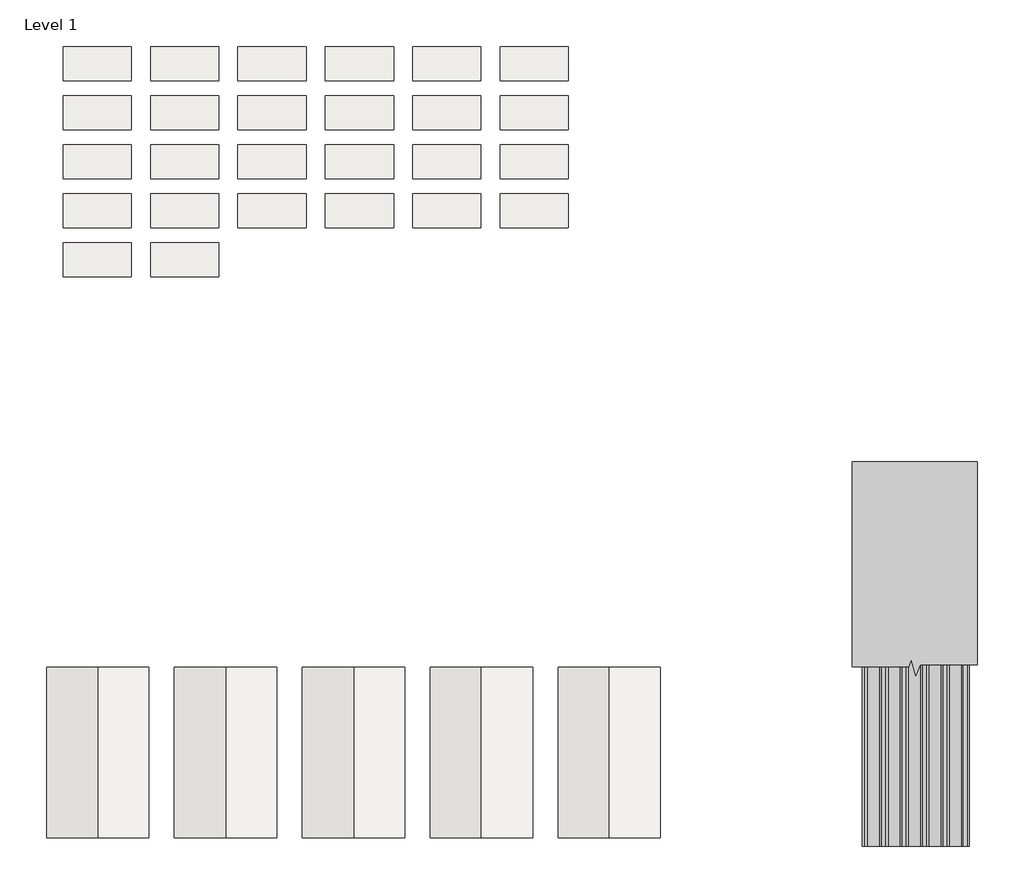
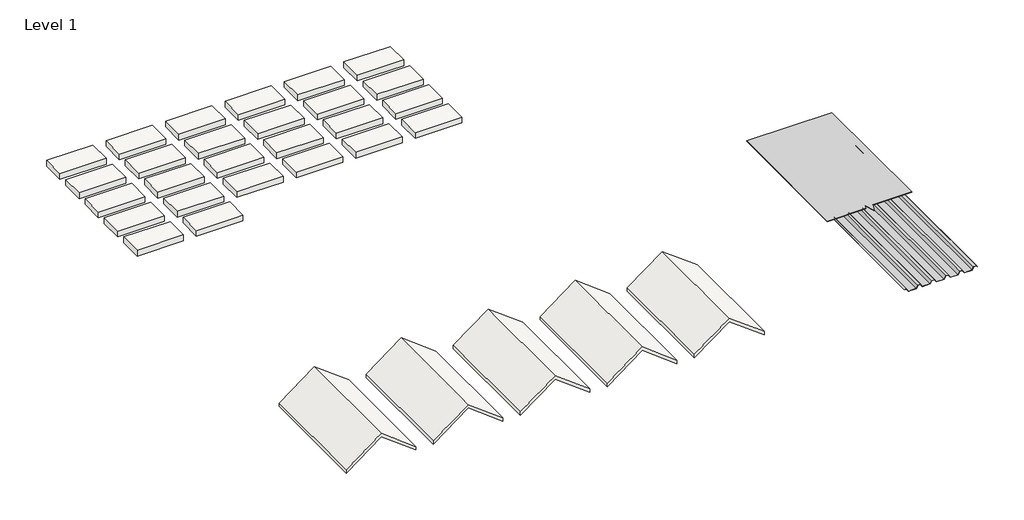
# One storey: 26 slabs, 5 roofs, 2 proxies.
"""IFC4 building model written with IfcOpenShell, lengths in millimetres."""

from ifc_helpers import new_model, si_unit, frame, origin, place, context, project, spatial, polyline, outline, extrude, transform, mapped, element, save
from components import proxy_1db7d4b0, section_mask3_section_mask_4427abd5

model = new_model("IFC4")

# Units and contexts
model_context = context("Model", 3, world=origin())
ifc_project = project(units=[si_unit("LENGTHUNIT", "METRE", prefix="MILLI")], contexts=[model_context])

# Site, building, storey
site = spatial("IfcSite", under=ifc_project)
building = spatial("IfcBuilding", under=site)
storey = spatial("IfcBuildingStorey", under=building, Name="Level 1", Elevation=0.0)

# Proxies
placement = place(None, origin())
proxy_shape = proxy_1db7d4b0(model_context)
element("IfcBuildingElementProxy", 1, Name="Reversed_Box-Rib_Panel_AEP_Span : 36\" Reversed Box Rib Roofing - 18ga", ObjectType="Reversed_Box-Rib_Panel_AEP_Span : 36\" Reversed Box Rib Roofing - 18ga", at=placement, inside=storey, context=model_context, shape_type="MappedRepresentation", body=[
    mapped(proxy_shape, transform((2691.5242461, 3661.5836112, 0.0), x_axis=(1.0, 0.0, 0.0), y_axis=(0.0, 1.0, 0.0), z_axis=(0.0, 0.0, 1.0))),
])
section_mask3_section_mask_shape = section_mask3_section_mask_4427abd5(model_context)
element("IfcBuildingElementProxy", 2, Name="Section Mask3 : Section Mask", ObjectType="Section Mask3 : Section Mask", at=placement, inside=storey, context=model_context, shape_type="MappedRepresentation", body=[
    mapped(section_mask3_section_mask_shape, transform((-5499.7985818, 1348.5235379, -1.5875), x_axis=(1.0, 0.0, 0.0), y_axis=(0.0, 1.0, 0.0), z_axis=(0.0, 0.0, 1.0))),
])

# Roofs
element("IfcRoof", 3, ObjectType="36\" Reversed Box Rib Roofing - 18ga", at=placement, inside=storey, context=model_context, shape_type="SweptSolid", body=[
    extrude(outline(polyline([(47.625, -4151.1972798), (390.525, -4608.3972798), (47.625, -5065.5972798), (0.0, -5065.5972798), (342.9, -4608.3972798), (0.0, -4151.1972798), (47.625, -4151.1972798)])), frame((0.0, 433.0186306, 0.0), z_axis=(0.0, 1.0, 0.0), x_axis=(0.0, 0.0, 1.0)), (0.0, 0.0, 1.0), 1524.0),
])
element("IfcRoof", 4, ObjectType="36\" Reversed Box Rib Roofing - 20ga", at=placement, inside=storey, context=model_context, shape_type="SweptSolid", body=[
    extrude(outline(polyline([(47.625, -3008.1972798), (390.525, -3465.3972798), (47.625, -3922.5972798), (0.0, -3922.5972798), (342.9, -3465.3972798), (0.0, -3008.1972798), (47.625, -3008.1972798)])), frame((0.0, 433.0186306, 0.0), z_axis=(0.0, 1.0, 0.0), x_axis=(0.0, 0.0, 1.0)), (0.0, 0.0, 1.0), 1524.0),
])
element("IfcRoof", 5, ObjectType="36\" Reversed Box Rib Roofing - 22ga", at=placement, inside=storey, context=model_context, shape_type="SweptSolid", body=[
    extrude(outline(polyline([(47.625, -1865.1972798), (390.525, -2322.3972798), (47.625, -2779.5972798), (0.0, -2779.5972798), (342.9, -2322.3972798), (0.0, -1865.1972798), (47.625, -1865.1972798)])), frame((0.0, 433.0186306, 0.0), z_axis=(0.0, 1.0, 0.0), x_axis=(0.0, 0.0, 1.0)), (0.0, 0.0, 1.0), 1524.0),
])
element("IfcRoof", 6, ObjectType="36\" Reversed Box Rib Roofing - 24ga", at=placement, inside=storey, context=model_context, shape_type="SweptSolid", body=[
    extrude(outline(polyline([(47.625, -722.1972798), (390.525, -1179.3972798), (47.625, -1636.5972798), (0.0, -1636.5972798), (342.9, -1179.3972798), (0.0, -722.1972798), (47.625, -722.1972798)])), frame((0.0, 433.0186306, 0.0), z_axis=(0.0, 1.0, 0.0), x_axis=(0.0, 0.0, 1.0)), (0.0, 0.0, 1.0), 1524.0),
])
element("IfcRoof", 7, ObjectType="36\" Reversed Box Rib Roofing - 26ga", at=placement, inside=storey, context=model_context, shape_type="SweptSolid", body=[
    extrude(outline(polyline([(47.625, 420.8027202), (390.525, -36.3972798), (47.625, -493.5972798), (0.0, -493.5972798), (342.9, -36.3972798), (0.0, 420.8027202), (47.625, 420.8027202)])), frame((0.0, 433.0186306, 0.0), z_axis=(0.0, 1.0, 0.0), x_axis=(0.0, 0.0, 1.0)), (0.0, 0.0, 1.0), 1524.0),
])

# Slabs
element("IfcSlab", 8, ObjectType="AEP Span Material Sample", at=placement, inside=storey, context=model_context, shape_type="SweptSolid", body=[
    extrude(outline(polyline([(-4307.8660775, 7199.3976846), (-4917.4660775, 7199.3976846), (-4917.4660775, 7504.1976846), (-4307.8660775, 7504.1976846), (-4307.8660775, 7199.3976846)])), frame((0.0, 0.0, -79.375), z_axis=(0.0, 0.0, 1.0), x_axis=(1.0, 0.0, 0.0)), (0.0, 0.0, 1.0), 79.375),
])
element("IfcSlab", 9, ObjectType="AEP Span Material Sample", at=placement, inside=storey, context=model_context, shape_type="SweptSolid", body=[
    extrude(outline(polyline([(-3526.8160775, 7199.3976846), (-4136.4160775, 7199.3976846), (-4136.4160775, 7504.1976846), (-3526.8160775, 7504.1976846), (-3526.8160775, 7199.3976846)])), frame((0.0, 0.0, -79.375), z_axis=(0.0, 0.0, 1.0), x_axis=(1.0, 0.0, 0.0)), (0.0, 0.0, 1.0), 79.375),
])
element("IfcSlab", 10, ObjectType="AEP Span Material Sample", at=placement, inside=storey, context=model_context, shape_type="SweptSolid", body=[
    extrude(outline(polyline([(-2745.7660775, 7199.3976846), (-3355.3660775, 7199.3976846), (-3355.3660775, 7504.1976846), (-2745.7660775, 7504.1976846), (-2745.7660775, 7199.3976846)])), frame((0.0, 0.0, -79.375), z_axis=(0.0, 0.0, 1.0), x_axis=(1.0, 0.0, 0.0)), (0.0, 0.0, 1.0), 79.375),
])
element("IfcSlab", 11, ObjectType="AEP Span Material Sample", at=placement, inside=storey, context=model_context, shape_type="SweptSolid", body=[
    extrude(outline(polyline([(-1964.7160775, 7199.3976846), (-2574.3160775, 7199.3976846), (-2574.3160775, 7504.1976846), (-1964.7160775, 7504.1976846), (-1964.7160775, 7199.3976846)])), frame((0.0, 0.0, -79.375), z_axis=(0.0, 0.0, 1.0), x_axis=(1.0, 0.0, 0.0)), (0.0, 0.0, 1.0), 79.375),
])
element("IfcSlab", 12, ObjectType="AEP Span Material Sample", at=placement, inside=storey, context=model_context, shape_type="SweptSolid", body=[
    extrude(outline(polyline([(-1183.6660775, 7199.3976846), (-1793.2660775, 7199.3976846), (-1793.2660775, 7504.1976846), (-1183.6660775, 7504.1976846), (-1183.6660775, 7199.3976846)])), frame((0.0, 0.0, -79.375), z_axis=(0.0, 0.0, 1.0), x_axis=(1.0, 0.0, 0.0)), (0.0, 0.0, 1.0), 79.375),
])
element("IfcSlab", 13, ObjectType="AEP Span Material Sample", at=placement, inside=storey, context=model_context, shape_type="SweptSolid", body=[
    extrude(outline(polyline([(-402.6160775, 7199.3976846), (-1012.2160775, 7199.3976846), (-1012.2160775, 7504.1976846), (-402.6160775, 7504.1976846), (-402.6160775, 7199.3976846)])), frame((0.0, 0.0, -79.375), z_axis=(0.0, 0.0, 1.0), x_axis=(1.0, 0.0, 0.0)), (0.0, 0.0, 1.0), 79.375),
])
element("IfcSlab", 14, ObjectType="AEP Span Material Sample", at=placement, inside=storey, context=model_context, shape_type="SweptSolid", body=[
    extrude(outline(polyline([(-4307.8660775, 6761.2476846), (-4917.4660775, 6761.2476846), (-4917.4660775, 7066.0476846), (-4307.8660775, 7066.0476846), (-4307.8660775, 6761.2476846)])), frame((0.0, 0.0, -79.375), z_axis=(0.0, 0.0, 1.0), x_axis=(1.0, 0.0, 0.0)), (0.0, 0.0, 1.0), 79.375),
])
element("IfcSlab", 15, ObjectType="AEP Span Material Sample", at=placement, inside=storey, context=model_context, shape_type="SweptSolid", body=[
    extrude(outline(polyline([(-3526.8160775, 6761.2476846), (-4136.4160775, 6761.2476846), (-4136.4160775, 7066.0476846), (-3526.8160775, 7066.0476846), (-3526.8160775, 6761.2476846)])), frame((0.0, 0.0, -79.375), z_axis=(0.0, 0.0, 1.0), x_axis=(1.0, 0.0, 0.0)), (0.0, 0.0, 1.0), 79.375),
])
element("IfcSlab", 16, ObjectType="AEP Span Material Sample", at=placement, inside=storey, context=model_context, shape_type="SweptSolid", body=[
    extrude(outline(polyline([(-2745.7660775, 6761.2476846), (-3355.3660775, 6761.2476846), (-3355.3660775, 7066.0476846), (-2745.7660775, 7066.0476846), (-2745.7660775, 6761.2476846)])), frame((0.0, 0.0, -79.375), z_axis=(0.0, 0.0, 1.0), x_axis=(1.0, 0.0, 0.0)), (0.0, 0.0, 1.0), 79.375),
])
element("IfcSlab", 17, ObjectType="AEP Span Material Sample", at=placement, inside=storey, context=model_context, shape_type="SweptSolid", body=[
    extrude(outline(polyline([(-1964.7160775, 6761.2476846), (-2574.3160775, 6761.2476846), (-2574.3160775, 7066.0476846), (-1964.7160775, 7066.0476846), (-1964.7160775, 6761.2476846)])), frame((0.0, 0.0, -79.375), z_axis=(0.0, 0.0, 1.0), x_axis=(1.0, 0.0, 0.0)), (0.0, 0.0, 1.0), 79.375),
])
element("IfcSlab", 18, ObjectType="AEP Span Material Sample", at=placement, inside=storey, context=model_context, shape_type="SweptSolid", body=[
    extrude(outline(polyline([(-1183.6660775, 6761.2476846), (-1793.2660775, 6761.2476846), (-1793.2660775, 7066.0476846), (-1183.6660775, 7066.0476846), (-1183.6660775, 6761.2476846)])), frame((0.0, 0.0, -79.375), z_axis=(0.0, 0.0, 1.0), x_axis=(1.0, 0.0, 0.0)), (0.0, 0.0, 1.0), 79.375),
])
element("IfcSlab", 19, ObjectType="AEP Span Material Sample", at=placement, inside=storey, context=model_context, shape_type="SweptSolid", body=[
    extrude(outline(polyline([(-402.6160775, 6761.2476846), (-1012.2160775, 6761.2476846), (-1012.2160775, 7066.0476846), (-402.6160775, 7066.0476846), (-402.6160775, 6761.2476846)])), frame((0.0, 0.0, -79.375), z_axis=(0.0, 0.0, 1.0), x_axis=(1.0, 0.0, 0.0)), (0.0, 0.0, 1.0), 79.375),
])
element("IfcSlab", 20, ObjectType="AEP Span Material Sample", at=placement, inside=storey, context=model_context, shape_type="SweptSolid", body=[
    extrude(outline(polyline([(-4307.8660775, 6323.0976846), (-4917.4660775, 6323.0976846), (-4917.4660775, 6627.8976846), (-4307.8660775, 6627.8976846), (-4307.8660775, 6323.0976846)])), frame((0.0, 0.0, -79.375), z_axis=(0.0, 0.0, 1.0), x_axis=(1.0, 0.0, 0.0)), (0.0, 0.0, 1.0), 79.375),
])
element("IfcSlab", 21, ObjectType="AEP Span Material Sample", at=placement, inside=storey, context=model_context, shape_type="SweptSolid", body=[
    extrude(outline(polyline([(-3526.8160775, 6323.0976846), (-4136.4160775, 6323.0976846), (-4136.4160775, 6627.8976846), (-3526.8160775, 6627.8976846), (-3526.8160775, 6323.0976846)])), frame((0.0, 0.0, -79.375), z_axis=(0.0, 0.0, 1.0), x_axis=(1.0, 0.0, 0.0)), (0.0, 0.0, 1.0), 79.375),
])
element("IfcSlab", 22, ObjectType="AEP Span Material Sample", at=placement, inside=storey, context=model_context, shape_type="SweptSolid", body=[
    extrude(outline(polyline([(-2745.7660775, 6323.0976846), (-3355.3660775, 6323.0976846), (-3355.3660775, 6627.8976846), (-2745.7660775, 6627.8976846), (-2745.7660775, 6323.0976846)])), frame((0.0, 0.0, -79.375), z_axis=(0.0, 0.0, 1.0), x_axis=(1.0, 0.0, 0.0)), (0.0, 0.0, 1.0), 79.375),
])
element("IfcSlab", 23, ObjectType="AEP Span Material Sample", at=placement, inside=storey, context=model_context, shape_type="SweptSolid", body=[
    extrude(outline(polyline([(-1964.7160775, 6323.0976846), (-2574.3160775, 6323.0976846), (-2574.3160775, 6627.8976846), (-1964.7160775, 6627.8976846), (-1964.7160775, 6323.0976846)])), frame((0.0, 0.0, -79.375), z_axis=(0.0, 0.0, 1.0), x_axis=(1.0, 0.0, 0.0)), (0.0, 0.0, 1.0), 79.375),
])
element("IfcSlab", 24, ObjectType="AEP Span Material Sample", at=placement, inside=storey, context=model_context, shape_type="SweptSolid", body=[
    extrude(outline(polyline([(-1183.6660775, 6323.0976846), (-1793.2660775, 6323.0976846), (-1793.2660775, 6627.8976846), (-1183.6660775, 6627.8976846), (-1183.6660775, 6323.0976846)])), frame((0.0, 0.0, -79.375), z_axis=(0.0, 0.0, 1.0), x_axis=(1.0, 0.0, 0.0)), (0.0, 0.0, 1.0), 79.375),
])
element("IfcSlab", 25, ObjectType="AEP Span Material Sample", at=placement, inside=storey, context=model_context, shape_type="SweptSolid", body=[
    extrude(outline(polyline([(-402.6160775, 6323.0976846), (-1012.2160775, 6323.0976846), (-1012.2160775, 6627.8976846), (-402.6160775, 6627.8976846), (-402.6160775, 6323.0976846)])), frame((0.0, 0.0, -79.375), z_axis=(0.0, 0.0, 1.0), x_axis=(1.0, 0.0, 0.0)), (0.0, 0.0, 1.0), 79.375),
])
element("IfcSlab", 26, ObjectType="AEP Span Material Sample", at=placement, inside=storey, context=model_context, shape_type="SweptSolid", body=[
    extrude(outline(polyline([(-4307.8660775, 5884.9476846), (-4917.4660775, 5884.9476846), (-4917.4660775, 6189.7476846), (-4307.8660775, 6189.7476846), (-4307.8660775, 5884.9476846)])), frame((0.0, 0.0, -79.375), z_axis=(0.0, 0.0, 1.0), x_axis=(1.0, 0.0, 0.0)), (0.0, 0.0, 1.0), 79.375),
])
element("IfcSlab", 27, ObjectType="AEP Span Material Sample", at=placement, inside=storey, context=model_context, shape_type="SweptSolid", body=[
    extrude(outline(polyline([(-3526.8160775, 5884.9476846), (-4136.4160775, 5884.9476846), (-4136.4160775, 6189.7476846), (-3526.8160775, 6189.7476846), (-3526.8160775, 5884.9476846)])), frame((0.0, 0.0, -79.375), z_axis=(0.0, 0.0, 1.0), x_axis=(1.0, 0.0, 0.0)), (0.0, 0.0, 1.0), 79.375),
])
element("IfcSlab", 28, ObjectType="AEP Span Material Sample", at=placement, inside=storey, context=model_context, shape_type="SweptSolid", body=[
    extrude(outline(polyline([(-2745.7660775, 5884.9476846), (-3355.3660775, 5884.9476846), (-3355.3660775, 6189.7476846), (-2745.7660775, 6189.7476846), (-2745.7660775, 5884.9476846)])), frame((0.0, 0.0, -79.375), z_axis=(0.0, 0.0, 1.0), x_axis=(1.0, 0.0, 0.0)), (0.0, 0.0, 1.0), 79.375),
])
element("IfcSlab", 29, ObjectType="AEP Span Material Sample", at=placement, inside=storey, context=model_context, shape_type="SweptSolid", body=[
    extrude(outline(polyline([(-1964.7160775, 5884.9476846), (-2574.3160775, 5884.9476846), (-2574.3160775, 6189.7476846), (-1964.7160775, 6189.7476846), (-1964.7160775, 5884.9476846)])), frame((0.0, 0.0, -79.375), z_axis=(0.0, 0.0, 1.0), x_axis=(1.0, 0.0, 0.0)), (0.0, 0.0, 1.0), 79.375),
])
element("IfcSlab", 30, ObjectType="AEP Span Material Sample", at=placement, inside=storey, context=model_context, shape_type="SweptSolid", body=[
    extrude(outline(polyline([(-1183.6660775, 5884.9476846), (-1793.2660775, 5884.9476846), (-1793.2660775, 6189.7476846), (-1183.6660775, 6189.7476846), (-1183.6660775, 5884.9476846)])), frame((0.0, 0.0, -79.375), z_axis=(0.0, 0.0, 1.0), x_axis=(1.0, 0.0, 0.0)), (0.0, 0.0, 1.0), 79.375),
])
element("IfcSlab", 31, ObjectType="AEP Span Material Sample", at=placement, inside=storey, context=model_context, shape_type="SweptSolid", body=[
    extrude(outline(polyline([(-402.6160775, 5884.9476846), (-1012.2160775, 5884.9476846), (-1012.2160775, 6189.7476846), (-402.6160775, 6189.7476846), (-402.6160775, 5884.9476846)])), frame((0.0, 0.0, -79.375), z_axis=(0.0, 0.0, 1.0), x_axis=(1.0, 0.0, 0.0)), (0.0, 0.0, 1.0), 79.375),
])
element("IfcSlab", 32, ObjectType="AEP Span Material Sample", at=placement, inside=storey, context=model_context, shape_type="SweptSolid", body=[
    extrude(outline(polyline([(-4307.8660775, 5446.7976846), (-4917.4660775, 5446.7976846), (-4917.4660775, 5751.5976846), (-4307.8660775, 5751.5976846), (-4307.8660775, 5446.7976846)])), frame((0.0, 0.0, -79.375), z_axis=(0.0, 0.0, 1.0), x_axis=(1.0, 0.0, 0.0)), (0.0, 0.0, 1.0), 79.375),
])
element("IfcSlab", 33, ObjectType="AEP Span Material Sample", at=placement, inside=storey, context=model_context, shape_type="SweptSolid", body=[
    extrude(outline(polyline([(-3526.8160775, 5446.7976846), (-4136.4160775, 5446.7976846), (-4136.4160775, 5751.5976846), (-3526.8160775, 5751.5976846), (-3526.8160775, 5446.7976846)])), frame((0.0, 0.0, -79.375), z_axis=(0.0, 0.0, 1.0), x_axis=(1.0, 0.0, 0.0)), (0.0, 0.0, 1.0), 79.375),
])

save(model, "model.ifc")
